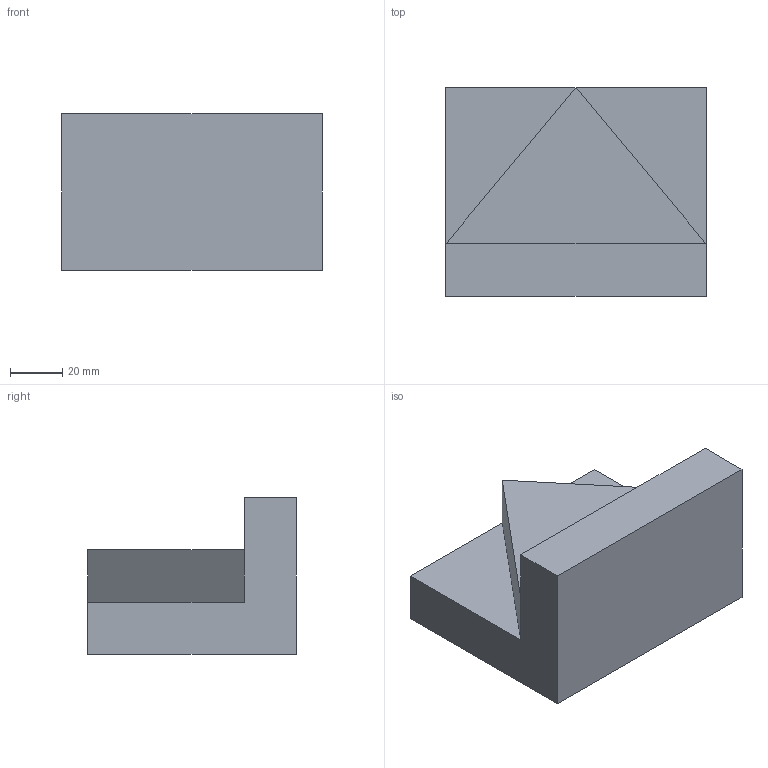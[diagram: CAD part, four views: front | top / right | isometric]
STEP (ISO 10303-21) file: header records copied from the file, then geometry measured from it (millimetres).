
FILE_DESCRIPTION(/* description */ (''),/* implementation_level */ '2;1');
FILE_NAME(/* time_stamp */ '2020-06-16T15:00:42+01:00',/* author */ ('DesignClass.co.uk'),/* originating_system */ 'Solidworks 2021',/* authorisation */ '');
FILE_SCHEMA (('AUTOMOTIVE_DESIGN { 1 0 10303 214 3 1 1 }'));
Length unit declared in the file: millimetre
Products named in the file (1): Task_4
Bounding box: 100 x 80 x 60 mm (x, y, z)
Volume: 300000 mm3; surface area: 33924.1 mm2
Topology: 1 solids, 1 shells, 12 faces, 26 edges, 16 vertices
Faces by surface type: plane 12
Entity records: 359 total; most frequent: CARTESIAN_POINT 55, ORIENTED_EDGE 52, DIRECTION 52, LINE 26, VECTOR 26, EDGE_CURVE 26, VERTEX_POINT 16, AXIS2_PLACEMENT_3D 13
